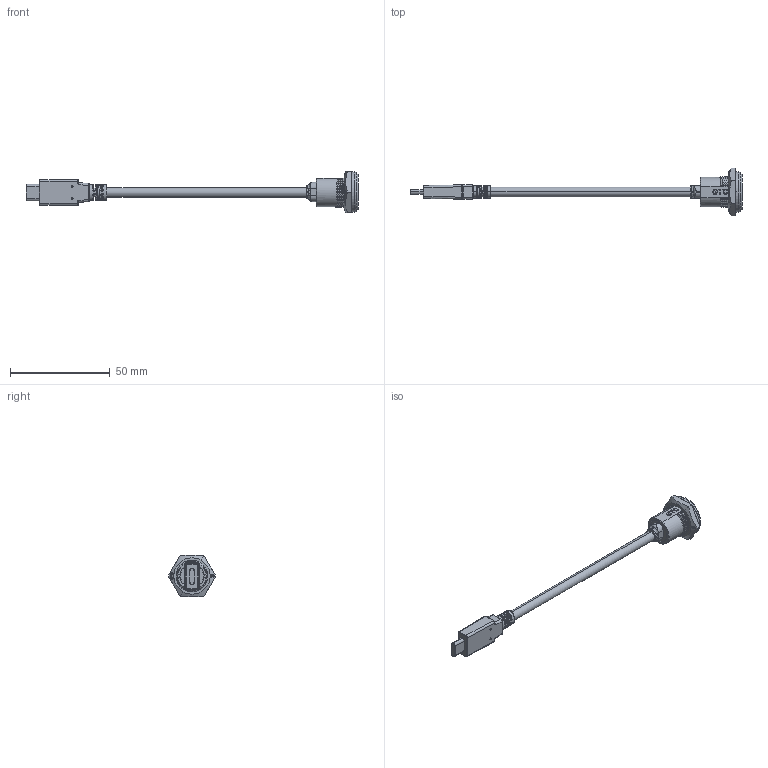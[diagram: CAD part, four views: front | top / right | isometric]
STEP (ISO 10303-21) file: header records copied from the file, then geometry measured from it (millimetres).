
FILE_DESCRIPTION (( 'STEP AP203' ), '1' );
FILE_NAME ('GT11C401-01-XX.STEP', '2023-02-16T05:54:43', ( '' ), ( '' ), 'SwSTEP 2.0', 'SolidWorks 2019', '' );
FILE_SCHEMA (( 'CONFIG_CONTROL_DESIGN' ));
Length unit declared in the file: millimetre
Products named in the file (1): GT11C401-01-XX
Bounding box: 166.65 x 23.79 x 20.6 mm (x, y, z)
Volume: 9111.9 mm3; surface area: 7517.1 mm2
Topology: 4 solids, 6 shells, 516 faces, 1362 edges, 874 vertices
Faces by surface type: plane 288, cylinder 111, bspline 103, cone 12, torus 2
Entity records: 32101 total; most frequent: CARTESIAN_POINT 20912, ORIENTED_EDGE 2716, DIRECTION 1734, EDGE_CURVE 1358, VERTEX_POINT 874, VECTOR 642, LINE 642, AXIS2_PLACEMENT_3D 546
